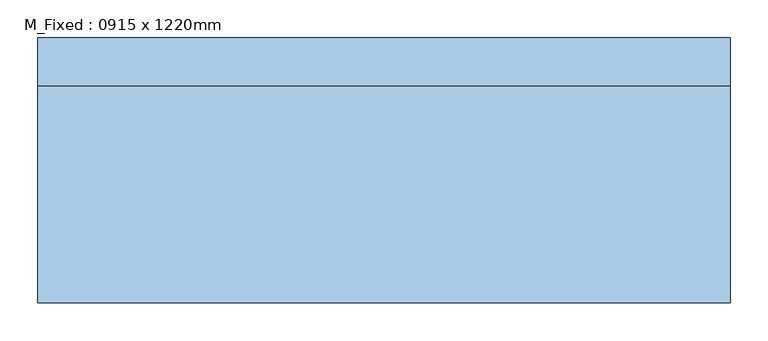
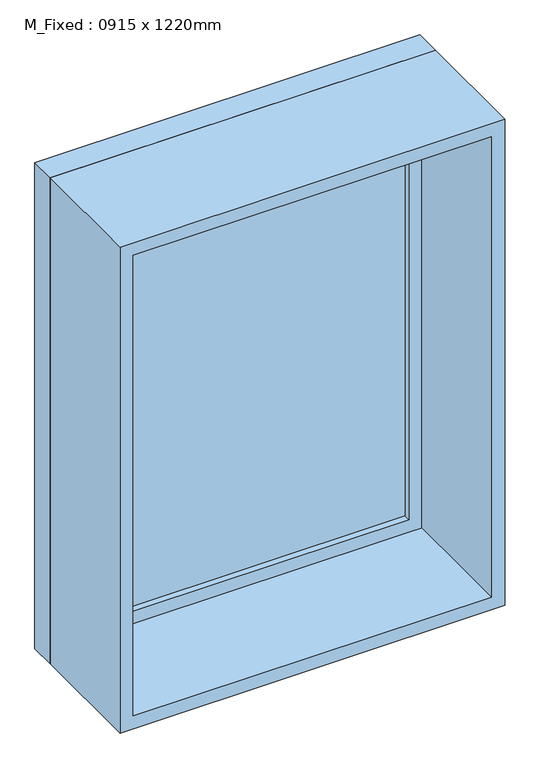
"""IFC4 building model written with IfcOpenShell, lengths in millimetres: window geometry, M_Fixed : 0915 x 1220mm."""

from ifc_helpers import new_model, si_unit, frame, origin, place, context, project, spatial, polyline, outline, extrude, source, transform, mapped, element, save


def m_fixed_0915_x_1220mm_bde29121(model_context):
    return source(origin(), model_context, "Body", "SweptSolid", [
        extrude(outline(polyline([(-394.5, 153.0), (394.5, 153.0), (394.5, 141.0), (-394.5, 141.0), (-394.5, 153.0)])), frame((0.0, 0.0, 978.0), z_axis=(0.0, 0.0, 1.0), x_axis=(1.0, 0.0, 0.0)), (0.0, 0.0, 1.0), 1094.0),
        extrude(outline(polyline([(2116.0, -438.5), (934.0, -438.5), (934.0, 438.5), (2116.0, 438.5), (2116.0, -438.5)]), holes=[polyline([(2072.0, -394.5), (2072.0, 394.5), (978.0, 394.5), (978.0, -394.5), (2072.0, -394.5)])]), frame((0.0, 125.0, 0.0), z_axis=(0.0, 1.0, 0.0), x_axis=(0.0, 0.0, 1.0)), (0.0, 0.0, 1.0), 44.0),
        extrude(outline(polyline([(2135.0, -457.5), (915.0, -457.5), (915.0, 457.5), (2135.0, 457.5), (2135.0, -457.5)]), holes=[polyline([(2116.0, -438.5), (2116.0, 438.5), (934.0, 438.5), (934.0, -438.5), (2116.0, -438.5)])]), frame((0.0, 125.0, 0.0), z_axis=(0.0, 1.0, 0.0), x_axis=(0.0, 0.0, 1.0)), (0.0, 0.0, 1.0), 63.0),
        extrude(outline(polyline([(2135.0, -457.5), (915.0, -457.5), (915.0, 457.5), (2135.0, 457.5), (2135.0, -457.5)]), holes=[polyline([(2103.0, -425.5), (2103.0, 425.5), (947.0, 425.5), (947.0, -425.5), (2103.0, -425.5)])]), frame((0.0, -162.0, 0.0), z_axis=(0.0, 1.0, 0.0), x_axis=(0.0, 0.0, 1.0)), (0.0, 0.0, 1.0), 287.0),
    ])


if __name__ == "__main__":
    model = new_model("IFC4")
    model_context = context("Model", 3, world=origin())
    ifc_project = project(units=[si_unit("LENGTHUNIT", "METRE", prefix="MILLI")], contexts=[model_context])
    site = spatial("IfcSite", under=ifc_project)
    building = spatial("IfcBuilding", under=site)
    placement = place(None, origin())
    m_fixed_0915_x_1220mm_shape = m_fixed_0915_x_1220mm_bde29121(model_context)
    element("IfcWindow", 1, ObjectType="M_Fixed : 0915 x 1220mm", at=placement, inside=building, context=model_context, shape_type="MappedRepresentation", body=[
        mapped(m_fixed_0915_x_1220mm_shape, transform((0.0, 0.0, 0.0), x_axis=(1.0, 0.0, 0.0), y_axis=(0.0, 1.0, 0.0), z_axis=(0.0, 0.0, 1.0))),
    ])
    save(model, "model.ifc")
